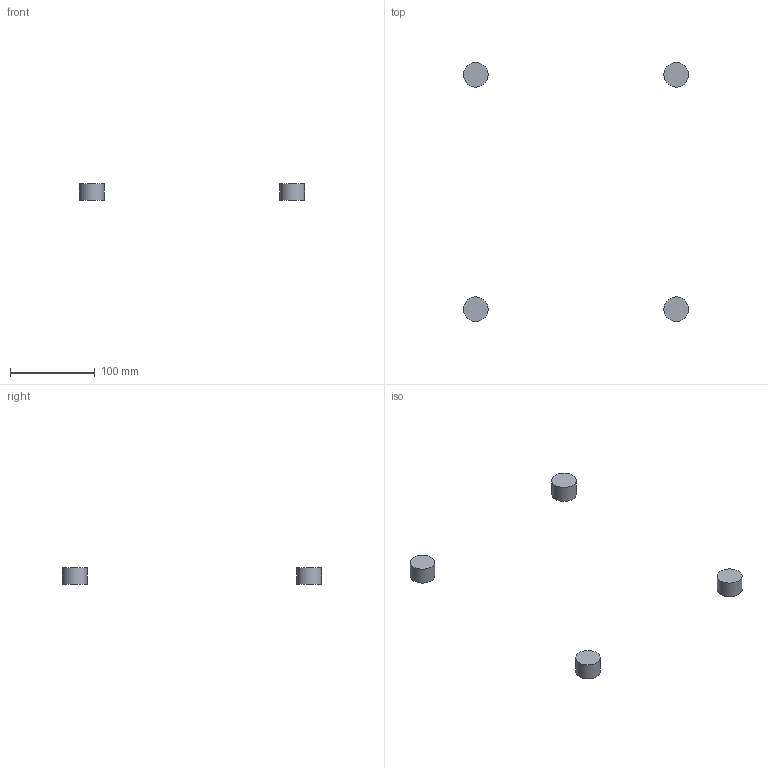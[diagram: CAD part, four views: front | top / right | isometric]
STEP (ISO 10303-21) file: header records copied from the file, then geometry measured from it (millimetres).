
FILE_DESCRIPTION(('FreeCAD Model'),'2;1');
FILE_NAME('Open CASCADE Shape Model','2026-10-26T00:06:28',('FreeCAD'),( 'FreeCAD'),'Open CASCADE STEP processor 8.0','FreeCAD','Unknown');
FILE_SCHEMA(('AUTOMOTIVE_DESIGN { 1 0 10303 214 1 1 1 1 }'));
Length unit declared in the file: millimetre
Products named in the file (1): Open CASCADE STEP translator 8.0 4
Bounding box: 265 x 305 x 20 mm (x, y, z)
Volume: 52841.6 mm3; surface area: 12572.7 mm2
Topology: 4 solids, 4 shells, 12 faces, 12 edges, 8 vertices
Faces by surface type: plane 8, cylinder 4
Full cylindrical faces by diameter (mm): 29 x4
Entity records: 228 total; most frequent: DIRECTION 46, CARTESIAN_POINT 33, ORIENTED_EDGE 24, AXIS2_PLACEMENT_3D 21, ADVANCED_FACE 12, FACE_BOUND 12, EDGE_LOOP 12, EDGE_CURVE 12
